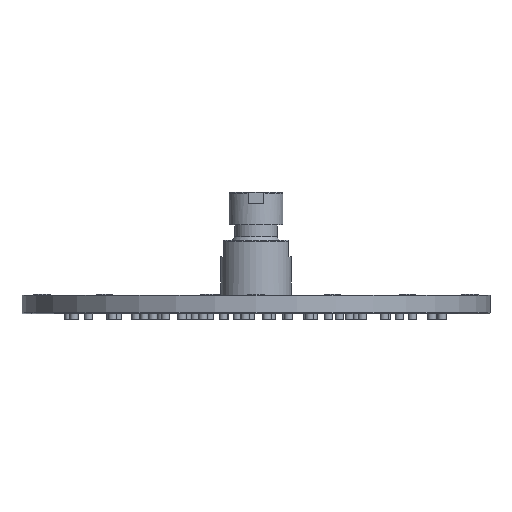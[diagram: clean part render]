
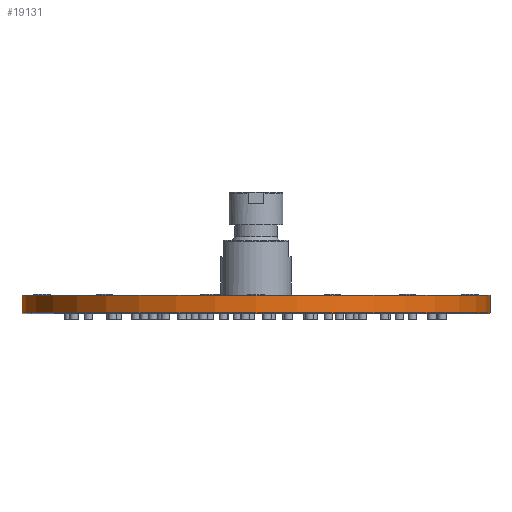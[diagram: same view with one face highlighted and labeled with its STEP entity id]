
A CAD part, front view. The second image highlights one B-rep face of the part: STEP entity #19131.
In plain terms, the highlighted cylindrical face has radius 100 mm (diameter 200 mm), a partial arc.
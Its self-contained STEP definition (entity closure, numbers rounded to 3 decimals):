
#458 = ORIENTED_EDGE ( 'NONE', *, *, #18776, .F. ) ;
#465 = CIRCLE ( 'NONE', #5241, 100. ) ;
#947 = LINE ( 'NONE', #13321, #20551 ) ;
#1021 = AXIS2_PLACEMENT_3D ( 'NONE', #8745, #19253, #3243 ) ;
#1818 = ORIENTED_EDGE ( 'NONE', *, *, #3116, .T. ) ;
#2095 = DIRECTION ( 'NONE',  ( 0., 0., -1. ) ) ;
#3116 = EDGE_CURVE ( 'NONE', #3406, #21532, #465, .T. ) ;
#3243 = DIRECTION ( 'NONE',  ( -1., 0., 0. ) ) ;
#3406 = VERTEX_POINT ( 'NONE', #21298 ) ;
#3445 = EDGE_LOOP ( 'NONE', ( #10434, #458, #20271, #1818 ) ) ;
#3505 = CARTESIAN_POINT ( 'NONE',  ( -100., 0., 8. ) ) ;
#3737 = CARTESIAN_POINT ( 'NONE',  ( 100., 0., 8. ) ) ;
#5241 = AXIS2_PLACEMENT_3D ( 'NONE', #18291, #20500, #14663 ) ;
#6336 = DIRECTION ( 'NONE',  ( 0., 0., -1. ) ) ;
#6659 = FACE_OUTER_BOUND ( 'NONE', #3445, .T. ) ;
#8745 = CARTESIAN_POINT ( 'NONE',  ( 0., 0., 8. ) ) ;
#10398 = CARTESIAN_POINT ( 'NONE',  ( -100., 0., 8. ) ) ;
#10434 = ORIENTED_EDGE ( 'NONE', *, *, #12011, .F. ) ;
#10513 = CYLINDRICAL_SURFACE ( 'NONE', #1021, 100. ) ;
#12011 = EDGE_CURVE ( 'NONE', #16432, #21532, #947, .T. ) ;
#12158 = DIRECTION ( 'NONE',  ( 1., 0., 0. ) ) ;
#13321 = CARTESIAN_POINT ( 'NONE',  ( 100., 0., 8. ) ) ;
#14663 = DIRECTION ( 'NONE',  ( 1., 0., 0. ) ) ;
#16432 = VERTEX_POINT ( 'NONE', #3737 ) ;
#17766 = CARTESIAN_POINT ( 'NONE',  ( 0., 0., 8. ) ) ;
#17800 = CIRCLE ( 'NONE', #20786, 100. ) ;
#18291 = CARTESIAN_POINT ( 'NONE',  ( 0., 0., 0.5 ) ) ;
#18776 = EDGE_CURVE ( 'NONE', #20125, #16432, #17800, .T. ) ;
#19131 = ADVANCED_FACE ( 'NONE', ( #6659 ), #10513, .T. ) ;
#19253 = DIRECTION ( 'NONE',  ( 0., 0., -1. ) ) ;
#19846 = EDGE_CURVE ( 'NONE', #20125, #3406, #21496, .T. ) ;
#20125 = VERTEX_POINT ( 'NONE', #10398 ) ;
#20271 = ORIENTED_EDGE ( 'NONE', *, *, #19846, .T. ) ;
#20300 = CARTESIAN_POINT ( 'NONE',  ( 100., 0., 0.5 ) ) ;
#20500 = DIRECTION ( 'NONE',  ( 0., 0., 1. ) ) ;
#20551 = VECTOR ( 'NONE', #6336, 1000. ) ;
#20786 = AXIS2_PLACEMENT_3D ( 'NONE', #17766, #21041, #12158 ) ;
#21041 = DIRECTION ( 'NONE',  ( 0., 0., 1. ) ) ;
#21298 = CARTESIAN_POINT ( 'NONE',  ( -100., 0., 0.5 ) ) ;
#21496 = LINE ( 'NONE', #3505, #22324 ) ;
#21532 = VERTEX_POINT ( 'NONE', #20300 ) ;
#22324 = VECTOR ( 'NONE', #2095, 1000. ) ;
